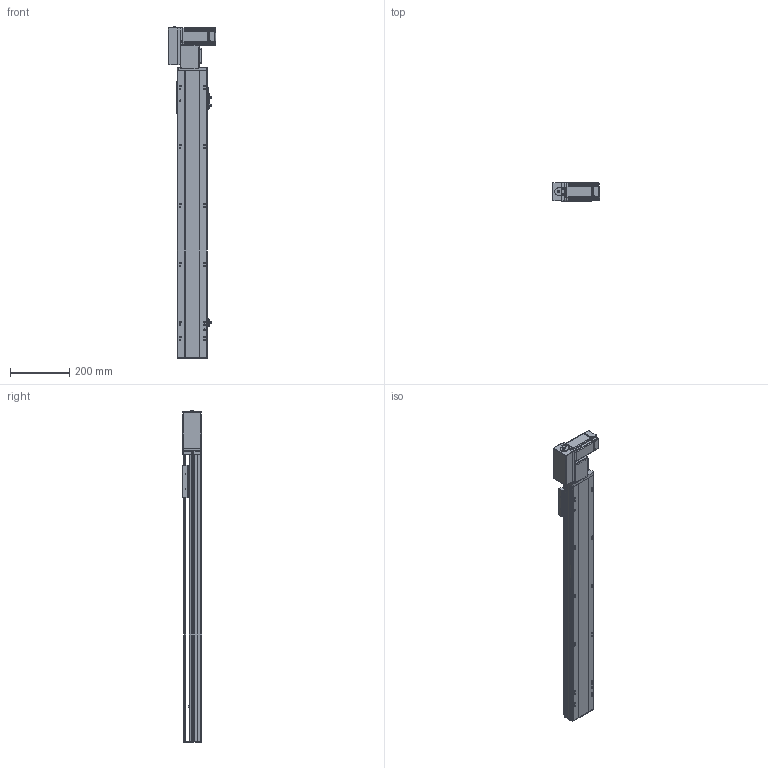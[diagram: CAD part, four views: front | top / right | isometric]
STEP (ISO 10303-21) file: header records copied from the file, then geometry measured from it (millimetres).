
FILE_DESCRIPTION (( 'STEP AP214' ), '1' );
FILE_NAME ('TPT10-L32-750-L-T10-C4.STEP', '2023-03-02T11:08:31', ( '' ), ( '' ), 'SwSTEP 2.0', 'SolidWorks 2020', '' );
FILE_SCHEMA (( 'AUTOMOTIVE_DESIGN' ));
Length unit declared in the file: millimetre
Products named in the file (12): 葩璃 TPT10-L-009 萇儂啣^TPT10-L32-L-T10-C4_100W; TPT10-L32-750-L-T10-C4; 葩璃 侂狟400W^TPT10-L32-L-T10-C4; hexagon head bolts-full thread gb_GB_FASTENER_BOLT_STBAB A M5X16-N; 葩璃 TPT10-L-002 奻裔MZ-102A-02^TPT10-L32-L-T10-C4; 葩璃 pm-t65-672^TPT10-L32-L-T10-C4; 葩璃 TPT10-L-001 菁釱MZ-102A-01^TPT10-L32-L-T10-C4; hex nuts, style 1-grades ab gb_GB_FASTENER_NUT_SNAB1 M3-N; hexagon socket head cap screws gb_GB_FASTENER_SCREWS_HSHCS M3X6-N; 葩璃 TPT10-L-007 々湍釱MZ-169x88^TPT10-L32-L-T10-C4_L; 葩璃 侂狟100W^TPT10-L32-L-T10-C4; 葩璃 TPT10-L-005 賑釱MZ-102A-03^TPT10-L32-L-T10-C4
Assembly tree (23 placements, depth 2):
  TPT10-L32-750-L-T10-C4
    葩璃 TPT10-L-001 菁釱MZ-102A-01^TPT10-L32-L-T10-C4
    葩璃 TPT10-L-002 奻裔MZ-102A-02^TPT10-L32-L-T10-C4
    葩璃 TPT10-L-007 々湍釱MZ-169x88^TPT10-L32-L-T10-C4_L
    葩璃 TPT10-L-005 賑釱MZ-102A-03^TPT10-L32-L-T10-C4
    葩璃 TPT10-L-009 萇儂啣^TPT10-L32-L-T10-C4_100W
    葩璃 pm-t65-672^TPT10-L32-L-T10-C4  x3
    葩璃 侂狟100W^TPT10-L32-L-T10-C4
    葩璃 侂狟400W^TPT10-L32-L-T10-C4
    hexagon head bolts-full thread gb_GB_FASTENER_BOLT_STBAB A M5X16-N
    hexagon socket head cap screws gb_GB_FASTENER_SCREWS_HSHCS M3X6-N  x6
    hex nuts, style 1-grades ab gb_GB_FASTENER_NUT_SNAB1 M3-N  x6
Bounding box: 160.5 x 66 x 1123.65 mm (x, y, z)
Volume: 3782243.7 mm3; surface area: 765906.1 mm2
Topology: 31 solids, 31 shells, 1917 faces, 5019 edges, 3209 vertices
Faces by surface type: plane 1050, cylinder 623, cone 198, bspline 34, torus 12
Entity records: 48493 total; most frequent: CARTESIAN_POINT 9536, DIRECTION 7930, ORIENTED_EDGE 7654, EDGE_CURVE 3827, AXIS2_PLACEMENT_3D 2788, VERTEX_POINT 2500, LINE 2354, VECTOR 2354
